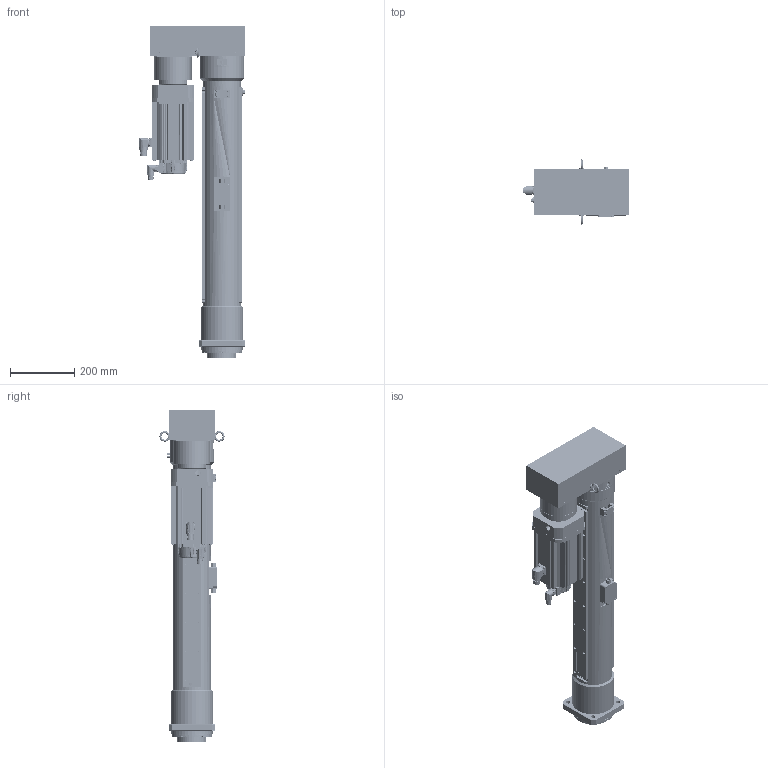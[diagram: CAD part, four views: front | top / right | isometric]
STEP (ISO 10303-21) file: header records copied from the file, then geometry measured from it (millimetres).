
FILE_DESCRIPTION( ('This file contains a STEP AP42 implementation' ,'as created by ZW3D STEP Interface translator.') ,'2;1' );
FILE_NAME( 'OACIS-DC-P035-P040-600-195-A6V400_V20.51.stp' ,'26 428.11 124', (''), ('ZWCAD Software Co.'), 'Version 1.0', 'ZW3D to STEP translator', '' );
FILE_SCHEMA(('AUTOMOTIVE_DESIGN { 1 0 10303 214 1 1 1 1 }'));
Length unit declared in the file: millimetre
Products named in the file (1): 0
Bounding box: 331 x 202.25 x 1031 mm (x, y, z)
Volume: 16435226.1 mm3; surface area: 2475382.3 mm2
Topology: 57 solids, 57 shells, 3931 faces, 10050 edges, 6444 vertices
Faces by surface type: cylinder 1901, plane 1478, cone 386, torus 107, bspline 47, sphere 12
Full cylindrical faces by diameter (mm): 1.25 x12, 1.567 x4, 2 x1, 2.232 x6, 2.459 x1, 2.8 x1, 3.242 x3, 3.3 x100, 4.2 x4, 4.3 x34, 4.5 x14, 4.917 x20, 5 x1, 5.3 x4, 5.5 x5, 6 x12, 6.647 x6, 6.8 x41, 7 x4, 8 x40, 8.4 x8, 8.5 x5, 9 x26, 9.5 x4, 9.78 x8, 10 x7, 10.104 x4, 10.106 x1, 10.2 x16, 10.5 x4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
Entity records: 143543 total; most frequent: CARTESIAN_POINT 38232, DIRECTION 22001, ORIENTED_EDGE 19872, EDGE_CURVE 9936, AXIS2_PLACEMENT_3D 8699, VERTEX_POINT 6441, CIRCLE 4785, EDGE_LOOP 4661
